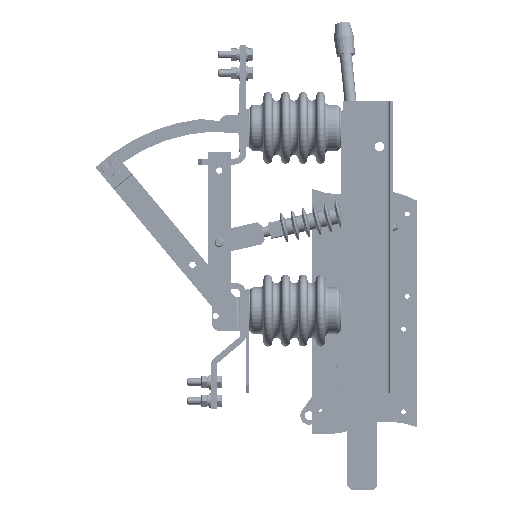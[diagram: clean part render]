
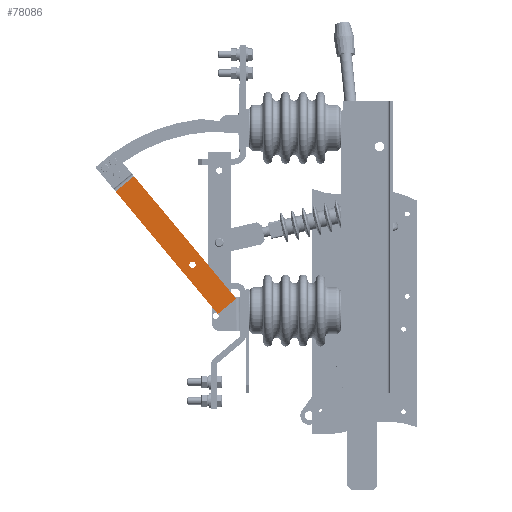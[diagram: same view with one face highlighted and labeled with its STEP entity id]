
A CAD part, left-side view. The second image highlights one B-rep face of the part: STEP entity #78086.
In plain terms, the highlighted planar face has unit normal (-1, 0, 0).
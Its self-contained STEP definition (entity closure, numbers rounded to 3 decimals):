
#236 = VECTOR ( 'NONE', #85813, 1000. ) ;
#1125 = LINE ( 'NONE', #72291, #203484 ) ;
#5229 = LINE ( 'NONE', #69727, #236 ) ;
#5390 = CARTESIAN_POINT ( 'NONE',  ( -222.005, 209.472, -104.042 ) ) ;
#10026 = CARTESIAN_POINT ( 'NONE',  ( -222.005, 265.148, -62.254 ) ) ;
#10902 = ORIENTED_EDGE ( 'NONE', *, *, #92813, .F. ) ;
#12961 = VERTEX_POINT ( 'NONE', #165451 ) ;
#14448 = DIRECTION ( 'NONE',  ( 0., 0.64, 0.768 ) ) ;
#14854 = CARTESIAN_POINT ( 'NONE',  ( -222.005, 209.472, -104.042 ) ) ;
#22785 = ORIENTED_EDGE ( 'NONE', *, *, #147775, .F. ) ;
#24977 = CARTESIAN_POINT ( 'NONE',  ( -222.005, 270.592, -55.726 ) ) ;
#25780 = AXIS2_PLACEMENT_3D ( 'NONE', #173338, #77613, #189375 ) ;
#33460 = DIRECTION ( 'NONE',  ( -1., 0., 0. ) ) ;
#35472 = CARTESIAN_POINT ( 'NONE',  ( -222.005, 234.049, -124.535 ) ) ;
#46685 = DIRECTION ( 'NONE',  ( -1., 0., 0. ) ) ;
#62241 = FACE_BOUND ( 'NONE', #101082, .T. ) ;
#69334 = VERTEX_POINT ( 'NONE', #35472 ) ;
#69727 = CARTESIAN_POINT ( 'NONE',  ( -222.005, 370.457, 39.055 ) ) ;
#70603 = CIRCLE ( 'NONE', #25780, 4.25 ) ;
#72291 = CARTESIAN_POINT ( 'NONE',  ( -222.005, 234.049, -124.535 ) ) ;
#73113 = LINE ( 'NONE', #173745, #195565 ) ;
#77613 = DIRECTION ( 'NONE',  ( -1., 0., 0. ) ) ;
#78086 = ADVANCED_FACE ( 'NONE', ( #142137, #62241 ), #144480, .T. ) ;
#79579 = VERTEX_POINT ( 'NONE', #24977 ) ;
#82891 = ORIENTED_EDGE ( 'NONE', *, *, #162726, .T. ) ;
#85813 = DIRECTION ( 'NONE',  ( 0., -0.768, 0.64 ) ) ;
#88347 = DIRECTION ( 'NONE',  ( 0., -0.768, 0.64 ) ) ;
#92813 = EDGE_CURVE ( 'NONE', #117573, #12961, #5229, .T. ) ;
#95213 = DIRECTION ( 'NONE',  ( 0., 0.64, 0.768 ) ) ;
#101082 = EDGE_LOOP ( 'NONE', ( #22785, #119403 ) ) ;
#101685 = AXIS2_PLACEMENT_3D ( 'NONE', #129129, #33460, #145189 ) ;
#110939 = VECTOR ( 'NONE', #95213, 1000. ) ;
#112401 = VERTEX_POINT ( 'NONE', #5390 ) ;
#116498 = CARTESIAN_POINT ( 'NONE',  ( -222.005, 370.457, 39.055 ) ) ;
#117573 = VERTEX_POINT ( 'NONE', #116498 ) ;
#119403 = ORIENTED_EDGE ( 'NONE', *, *, #182161, .F. ) ;
#129129 = CARTESIAN_POINT ( 'NONE',  ( -222.005, 234.049, -124.535 ) ) ;
#132753 = VERTEX_POINT ( 'NONE', #10026 ) ;
#142137 = FACE_OUTER_BOUND ( 'NONE', #183112, .T. ) ;
#142279 = CARTESIAN_POINT ( 'NONE',  ( -222.005, 267.87, -58.99 ) ) ;
#144480 = PLANE ( 'NONE',  #101685 ) ;
#145189 = DIRECTION ( 'NONE',  ( 0., -1., 0. ) ) ;
#147775 = EDGE_CURVE ( 'NONE', #79579, #132753, #179368, .T. ) ;
#151349 = AXIS2_PLACEMENT_3D ( 'NONE', #142279, #46685, #158383 ) ;
#153417 = LINE ( 'NONE', #14854, #110939 ) ;
#155235 = EDGE_CURVE ( 'NONE', #69334, #112401, #1125, .T. ) ;
#158383 = DIRECTION ( 'NONE',  ( 0., 0.64, 0.768 ) ) ;
#162726 = EDGE_CURVE ( 'NONE', #112401, #12961, #153417, .T. ) ;
#165451 = CARTESIAN_POINT ( 'NONE',  ( -222.005, 345.88, 59.549 ) ) ;
#172975 = EDGE_CURVE ( 'NONE', #69334, #117573, #73113, .T. ) ;
#173338 = CARTESIAN_POINT ( 'NONE',  ( -222.005, 267.87, -58.99 ) ) ;
#173745 = CARTESIAN_POINT ( 'NONE',  ( -222.005, 234.049, -124.535 ) ) ;
#179368 = CIRCLE ( 'NONE', #151349, 4.25 ) ;
#182161 = EDGE_CURVE ( 'NONE', #132753, #79579, #70603, .T. ) ;
#183112 = EDGE_LOOP ( 'NONE', ( #200304, #199891, #82891, #10902 ) ) ;
#189375 = DIRECTION ( 'NONE',  ( 0., -0.64, -0.768 ) ) ;
#195565 = VECTOR ( 'NONE', #14448, 1000. ) ;
#199891 = ORIENTED_EDGE ( 'NONE', *, *, #155235, .T. ) ;
#200304 = ORIENTED_EDGE ( 'NONE', *, *, #172975, .F. ) ;
#203484 = VECTOR ( 'NONE', #88347, 1000. ) ;
